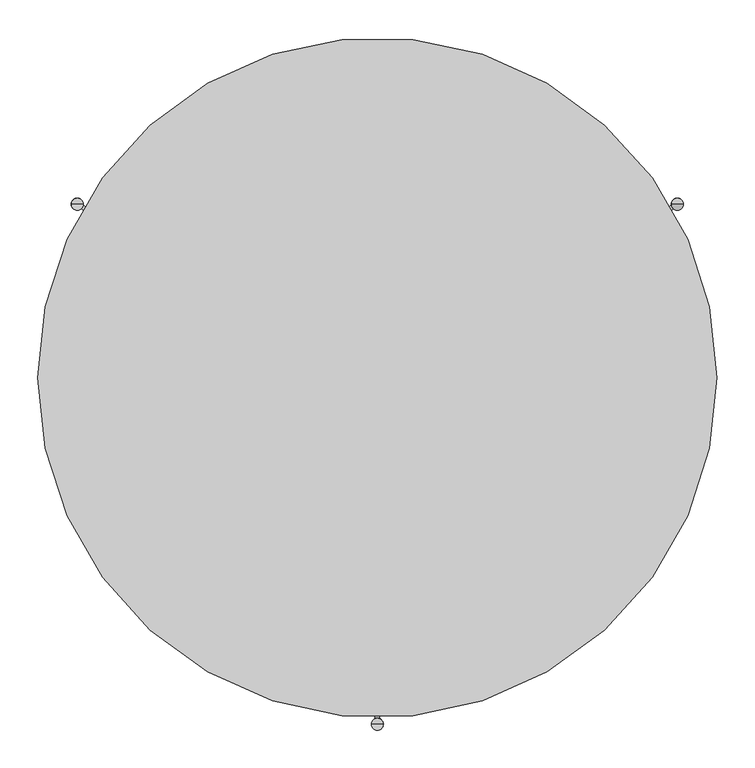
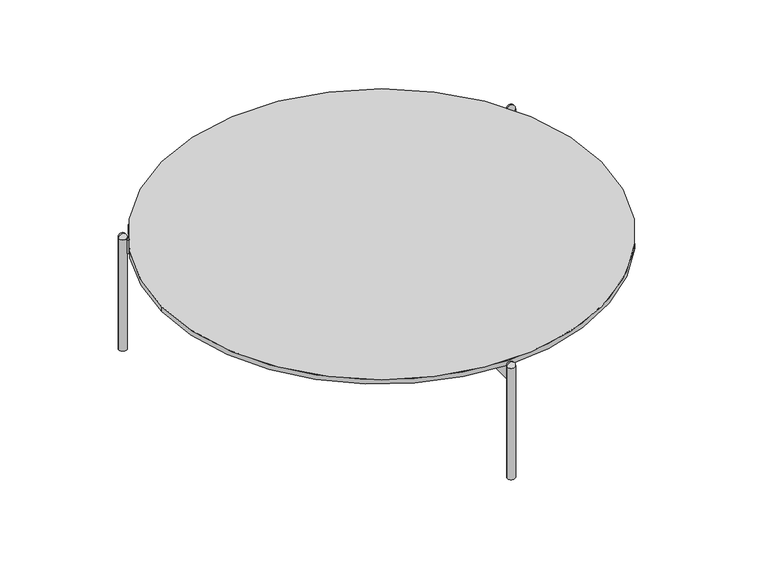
"""IFC4 building model written with IfcOpenShell, lengths in millimetres: furniture geometry, ROUND TABLE_H=25 : EI125B050090A_G."""

import ifcopenshell
import ifcopenshell.guid

model = None  # the IFC model being written
_history = None  # IfcOwnerHistory: only IFC2X3 demands one
_inside = {}  # id of a spatial element -> (the spatial element, [elements in it])
_under = {}  # id of a project, library or spatial element -> (it, [spatial elements below it])
_declared = {}  # id of a project -> (the project, [libraries it declares])
_typed = {}  # id of a type object -> (the type object, [elements of that type])
_made_of = {}  # id of a material, layer set ... -> (it, [elements and type objects made of it])


def new_model(schema):
    """Start an empty IFC model of exactly this schema.

    Asked for "IFC4X3", IfcOpenShell would pick the latest addendum, in which some entities
    have other attributes; the version numbers below select the first issue.
    IFC2X3 requires an IfcOwnerHistory on every rooted entity: one is made here for all.
    """
    global model, _history
    if schema == "IFC4X3":
        model = ifcopenshell.file(schema_version=(4, 3, 0, 0))
    else:
        model = ifcopenshell.file(schema=schema)
    _inside.clear()
    _under.clear()
    _declared.clear()
    _typed.clear()
    _made_of.clear()
    _history = None
    if model.schema == "IFC2X3":
        org = make("IfcOrganization", Name="unknown")
        user = make(
            "IfcPersonAndOrganization",
            ThePerson=make("IfcPerson", FamilyName="unknown"),
            TheOrganization=org,
        )
        app = make(
            "IfcApplication",
            ApplicationDeveloper=org,
            Version="unknown",
            ApplicationFullName="unknown",
            ApplicationIdentifier="unknown",
        )
        _history = make(
            "IfcOwnerHistory",
            OwningUser=user,
            OwningApplication=app,
            ChangeAction="ADDED",
            CreationDate=0,
        )
    return model


def make(cls, **values):
    """One entity of the class cls with the attributes given. An attribute that is None is left unset."""
    return model.create_entity(
        cls, **{name: value for name, value in values.items() if value is not None}
    )


def rooted(cls, **values):
    """An entity with a GlobalId (a new one), such as an element, a storey or a relation."""
    return make(cls, GlobalId=ifcopenshell.guid.new(), OwnerHistory=_history, **values)


def si_unit(unit_type, name, prefix=None):
    """IfcSIUnit, for example si_unit("LENGTHUNIT", "METRE", prefix="MILLI")."""
    return make("IfcSIUnit", UnitType=unit_type, Prefix=prefix, Name=name)


def assignment(units):
    """IfcUnitAssignment: the units of a project."""
    return None if units is None else make("IfcUnitAssignment", Units=units)


def point(xyz):
    """IfcCartesianPoint."""
    return None if xyz is None else make("IfcCartesianPoint", Coordinates=xyz)


def direction(xyz):
    """IfcDirection."""
    return None if xyz is None else make("IfcDirection", DirectionRatios=xyz)


def frame(location, z_axis=None, x_axis=None):
    """IfcAxis2Placement3D, a coordinate frame: its origin and axes. An axis left out is left unset."""
    return make(
        "IfcAxis2Placement3D",
        Location=point(location),
        Axis=direction(z_axis),
        RefDirection=direction(x_axis),
    )


def frame_2d(location, x_axis=None):
    """IfcAxis2Placement2D, a coordinate frame in the plane: its origin and x axis."""
    return make(
        "IfcAxis2Placement2D", Location=point(location), RefDirection=direction(x_axis)
    )


def origin():
    """The frame at (0, 0, 0) with its axes left unset."""
    return frame((0.0, 0.0, 0.0))


def origin_with_axes():
    """The frame at (0, 0, 0) with the z axis (0, 0, 1) and the x axis (1, 0, 0) written out."""
    return frame((0.0, 0.0, 0.0), z_axis=(0.0, 0.0, 1.0), x_axis=(1.0, 0.0, 0.0))


def origin_2d():
    """The frame at (0, 0) in the plane with its x axis left unset."""
    return frame_2d((0.0, 0.0))


def place(relative_to, where):
    """IfcLocalPlacement: puts the frame where relative to a parent placement (None: the world)."""
    return make(
        "IfcLocalPlacement", PlacementRelTo=relative_to, RelativePlacement=where
    )


def context(
    kind, dimensions, precision=None, world=None, true_north=None, identifier=None
):
    """IfcGeometricRepresentationContext, for example the 3D "Model" context."""
    return make(
        "IfcGeometricRepresentationContext",
        ContextIdentifier=identifier,
        ContextType=kind,
        CoordinateSpaceDimension=dimensions,
        Precision=precision,
        WorldCoordinateSystem=world,
        TrueNorth=true_north,
    )


def project(units=None, contexts=None):
    """IfcProject with its units and contexts."""
    return rooted(
        "IfcProject",
        Name="project",
        RepresentationContexts=contexts,
        UnitsInContext=assignment(units),
    )


def spatial(cls, under=None, at=None, **own):
    """A site, building, storey or space (cls), placed at a placement, below another one or the project."""
    s = rooted(cls, ObjectPlacement=at, **own)
    if under is not None:
        _under.setdefault(under.id(), (under, []))[1].append(s)
    return s


def polyline(points):
    """IfcPolyline through the points."""
    return make("IfcPolyline", Points=[point(p) for p in points])


def circle_curve(where, radius):
    """IfcCircle in the frame where."""
    return make("IfcCircle", Position=where, Radius=radius)


def ellipse_curve(where, semi_axis1, semi_axis2):
    """IfcEllipse in the frame where."""
    return make(
        "IfcEllipse", Position=where, SemiAxis1=semi_axis1, SemiAxis2=semi_axis2
    )


def trimmed(basis, trim1, trim2, sense, master):
    """IfcTrimmedCurve: the piece of a basis curve between two trims."""
    return make(
        "IfcTrimmedCurve",
        BasisCurve=basis,
        Trim1=trim1,
        Trim2=trim2,
        SenseAgreement=sense,
        MasterRepresentation=master,
    )


def segment(curve, same_sense, transition):
    """IfcCompositeCurveSegment."""
    return make(
        "IfcCompositeCurveSegment",
        Transition=transition,
        SameSense=same_sense,
        ParentCurve=curve,
    )


def composite_curve(segments, self_intersect=None):
    """IfcCompositeCurve: segments joined end to end."""
    return make("IfcCompositeCurve", Segments=segments, SelfIntersect=self_intersect)


def outline(outer, holes=None, kind="AREA"):
    """IfcArbitraryClosedProfileDef: a profile drawn as a closed curve; with holes, ...WithVoids."""
    if holes is None:
        return make("IfcArbitraryClosedProfileDef", ProfileType=kind, OuterCurve=outer)
    return make(
        "IfcArbitraryProfileDefWithVoids",
        ProfileType=kind,
        OuterCurve=outer,
        InnerCurves=holes,
    )


def extrude(swept, where, along, depth):
    """IfcExtrudedAreaSolid: the profile swept, set in the frame where, extruded along a direction by depth."""
    return make(
        "IfcExtrudedAreaSolid",
        SweptArea=swept,
        Position=where,
        ExtrudedDirection=direction(along),
        Depth=depth,
    )


def shape(context_of_items, identifier, shape_type, items):
    """IfcShapeRepresentation: the items that make up one representation, for example the "Body"."""
    return make(
        "IfcShapeRepresentation",
        ContextOfItems=context_of_items,
        RepresentationIdentifier=identifier,
        RepresentationType=shape_type,
        Items=items,
    )


def source(mapping_origin, context_of_items, identifier, shape_type, items):
    """IfcRepresentationMap: a shape defined once, which mapped items show again and again."""
    return make(
        "IfcRepresentationMap",
        MappingOrigin=mapping_origin,
        MappedRepresentation=shape(context_of_items, identifier, shape_type, items),
    )


def transform(
    local_origin,
    x_axis=None,
    y_axis=None,
    z_axis=None,
    scale=None,
    scale2=None,
    scale3=None,
    uniform=True,
):
    """IfcCartesianTransformationOperator3D, or its non-uniform kind. x_axis, y_axis, z_axis: its Axis1, 2, 3."""
    if uniform:
        return make(
            "IfcCartesianTransformationOperator3D",
            Axis1=direction(x_axis),
            Axis2=direction(y_axis),
            LocalOrigin=point(local_origin),
            Scale=scale,
            Axis3=direction(z_axis),
        )
    return make(
        "IfcCartesianTransformationOperator3DnonUniform",
        Axis1=direction(x_axis),
        Axis2=direction(y_axis),
        LocalOrigin=point(local_origin),
        Scale=scale,
        Axis3=direction(z_axis),
        Scale2=scale2,
        Scale3=scale3,
    )


def mapped(mapping_source, mapping_target):
    """IfcMappedItem: shows the shape of a source again, moved by a transform."""
    return make(
        "IfcMappedItem", MappingSource=mapping_source, MappingTarget=mapping_target
    )


def made_of(thing, what):
    """Note that an element or type object is made of a material, layer set ...; save() writes the relation."""
    if what is not None:
        _made_of.setdefault(what.id(), (what, []))[1].append(thing)
    return thing


def element(
    cls,
    number,
    at=None,
    inside=None,
    cuts=None,
    type_object=None,
    material=None,
    context=None,
    identifier="Body",
    shape_type=None,
    held_by="IfcProductDefinitionShape",
    body=None,
    shapes=None,
    **own,
):
    """One element of the class cls, such as IfcWall. Its Tag is "e" and its number.

    at: its placement. inside: the storey or other place that contains it. cuts: it is an
    opening in that element (IfcRelVoidsElement). A single representation is given by context,
    identifier, shape_type and body (its items); several are given by shapes. held_by: the class
    of the entity that holds the representations. save() writes the other relations.
    """
    e = rooted(cls, Tag="e%d" % number, ObjectPlacement=at, **own)
    if body is not None:
        shapes = [shape(context, identifier, shape_type, body)]
    if shapes is not None:
        e.Representation = make(held_by, Representations=shapes)
    if inside is not None:
        _inside.setdefault(inside.id(), (inside, []))[1].append(e)
    if cuts is not None:
        rooted(
            "IfcRelVoidsElement", RelatingBuildingElement=cuts, RelatedOpeningElement=e
        )
    if type_object is not None:
        _typed.setdefault(type_object.id(), (type_object, []))[1].append(e)
    return made_of(e, material)


def aggregate(whole, parts):
    """IfcRelAggregates: a whole, such as a stair, and the parts it consists of."""
    return rooted("IfcRelAggregates", RelatingObject=whole, RelatedObjects=parts)


def save(model, path):
    """Write the relations noted so far, then the file.

    IfcRelAggregates (storeys below a building ...), IfcRelContainedInSpatialStructure (elements
    in a storey), IfcRelDefinesByType, IfcRelAssociatesMaterial and IfcRelDeclares: one each for
    every whole, place, type object, material and project.
    """
    for whole, parts in _under.values():
        aggregate(whole, parts)
    for where, things in _inside.values():
        rooted(
            "IfcRelContainedInSpatialStructure",
            RelatedElements=things,
            RelatingStructure=where,
        )
    for kind, things in _typed.values():
        rooted("IfcRelDefinesByType", RelatedObjects=things, RelatingType=kind)
    for what, things in _made_of.values():
        rooted("IfcRelAssociatesMaterial", RelatedObjects=things, RelatingMaterial=what)
    for by, libraries in _declared.values():
        rooted("IfcRelDeclares", RelatingContext=by, RelatedDefinitions=libraries)
    model.write(path)


def plane_surface(at):
    """IfcPlane: the flat surface through the origin of the frame at, square to its z axis."""
    return make("IfcPlane", Position=at)


def revolved_surface(curve, axis_point, axis_direction):
    """IfcSurfaceOfRevolution: the curve turned about the line through axis_point along axis_direction."""
    return make(
        "IfcSurfaceOfRevolution",
        SweptCurve=make("IfcArbitraryOpenProfileDef", ProfileType="CURVE", Curve=curve),
        AxisPosition=make("IfcAxis1Placement", Location=point(axis_point), Axis=direction(axis_direction)),
    )


def advanced_brep(points, edges, surfaces, faces):
    """IfcAdvancedBrep: a solid bounded by faces that lie on surfaces and meet in shared edges.

    An edge is (start, end): straight between two places in points (the first is 0);
    or (start, end, curve); or (start, end, curve, False) where it runs against its curve.
    A face is (place in surfaces, loops), or (place, loops, False) where it looks against
    its surface's normal. A loop lists edges by number (the first is 1), with a minus sign
    where the edge is run from its end to its start. The first loop is the outer one.
    """
    corners = [point(p) for p in points]
    vertices = [make("IfcVertexPoint", VertexGeometry=c) for c in corners]
    made = []
    for start, end, *more in edges:
        made.append(
            make(
                "IfcEdgeCurve",
                EdgeStart=vertices[start],
                EdgeEnd=vertices[end],
                EdgeGeometry=more[0] if more else make("IfcPolyline", Points=[corners[start], corners[end]]),
                SameSense=more[1] if len(more) > 1 else True,
            )
        )
    hull = []
    for where, loops, *sense in faces:
        bounds = []
        for j, loop in enumerate(loops):
            ring = [make("IfcOrientedEdge", EdgeElement=made[abs(k) - 1], Orientation=k > 0) for k in loop]
            bounds.append(
                make(
                    "IfcFaceOuterBound" if j == 0 else "IfcFaceBound",
                    Bound=make("IfcEdgeLoop", EdgeList=ring),
                    Orientation=True,
                )
            )
        hull.append(make("IfcAdvancedFace", Bounds=bounds, FaceSurface=surfaces[where], SameSense=sense[0] if sense else True))
    return make("IfcAdvancedBrep", Outer=make("IfcClosedShell", CfsFaces=hull))


def furniture_84bfae13(model_context):
    return source(origin(), model_context, "Body", "SolidModel", [
        extrude(outline(composite_curve([segment(trimmed(circle_curve(origin_2d(), 450.0), [point((-450.0, 0.0))], [point((450.0, 0.0))], False, "CARTESIAN"), True, "CONTINUOUS"), segment(trimmed(circle_curve(origin_2d(), 450.0), [point((450.0, 0.0))], [point((-450.0, 0.0))], False, "CARTESIAN"), True, "CONTINUOUS")], self_intersect=False)), frame((0.0, 0.0, 237.6939464), z_axis=(0.0, 0.0, 1.0), x_axis=(1.0, 0.0, 0.0)), (0.0, 0.0, 1.0), 10.0),
        advanced_brep(
        [(397.55, 229.6, 249.1666667), (389.55, 229.6, 241.1666667), (405.55, 229.6, 241.1666667), (397.55, 229.6, 241.1666667)],
        [
            (0, 1, circle_curve(frame((397.55, 229.6, 241.1666667), z_axis=(0.0, -1.0, 0.0), x_axis=(1.0, 0.0, 0.0)), 8.0)),
            (1, 2, circle_curve(frame((397.55, 229.6, 241.1666667), z_axis=(0.0, 0.0, 1.0), x_axis=(-1.0, 0.0, 0.0)), 8.0)),
            (2, 0, circle_curve(frame((397.55, 229.6, 241.1666667), z_axis=(0.0, -1.0, 0.0), x_axis=(-1.0, 0.0, 0.0)), 8.0)),
            (2, 1, circle_curve(frame((397.55, 229.6, 241.1666667), z_axis=(0.0, 0.0, 1.0), x_axis=(-1.0, 0.0, 0.0)), 8.0)),
            (1, 3),
            (3, 2),
        ],
        [
            revolved_surface(trimmed(ellipse_curve(frame((397.55, 229.6, 241.1666667), z_axis=(0.0, 1.0, 0.0), x_axis=(1.0, 0.0, 0.0)), 8.0, 8.0), [point((389.55, 229.6, 241.1666667))], [point((397.55, 229.6, 249.1666667))], True, "CARTESIAN"), (397.55, 229.6, 2438.4), (0.0, 0.0, 1.0)),
            plane_surface(frame((397.55, 229.6, 241.1666667), z_axis=(0.0, 0.0, -1.0), x_axis=(-1.0, 0.0, 0.0))),
        ],
        [
            (0, [[1, 2, 3]]),
            (0, [[-3, 4, -1]]),
            (1, [[-2, 5, 6]]),
            (1, [[-4, -6, -5]]),
        ],
    ),
        advanced_brep(
        [(397.55, 229.6, 249.1666667), (389.55, 229.6, 241.1666667), (405.55, 229.6, 241.1666667), (397.55, 229.6, 241.1666667)],
        [
            (0, 1, circle_curve(frame((397.55, 229.6, 241.1666667), z_axis=(0.0, -1.0, 0.0), x_axis=(1.0, 0.0, 0.0)), 8.0)),
            (1, 2, circle_curve(frame((397.55, 229.6, 241.1666667), z_axis=(0.0, 0.0, 1.0), x_axis=(-1.0, 0.0, 0.0)), 8.0)),
            (2, 0, circle_curve(frame((397.55, 229.6, 241.1666667), z_axis=(0.0, -1.0, 0.0), x_axis=(-1.0, 0.0, 0.0)), 8.0)),
            (2, 1, circle_curve(frame((397.55, 229.6, 241.1666667), z_axis=(0.0, 0.0, 1.0), x_axis=(-1.0, 0.0, 0.0)), 8.0)),
            (1, 3),
            (3, 2),
        ],
        [
            revolved_surface(trimmed(ellipse_curve(frame((397.55, 229.6, 241.1666667), z_axis=(0.0, 1.0, 0.0), x_axis=(1.0, 0.0, 0.0)), 8.0, 8.0), [point((389.55, 229.6, 241.1666667))], [point((397.55, 229.6, 249.1666667))], True, "CARTESIAN"), (397.55, 229.6, 2438.4), (0.0, 0.0, 1.0)),
            plane_surface(frame((397.55, 229.6, 241.1666667), z_axis=(0.0, 0.0, -1.0), x_axis=(-1.0, 0.0, 0.0))),
        ],
        [
            (0, [[1, 2, 3]]),
            (0, [[-3, 4, -1]]),
            (1, [[-2, 5, 6]]),
            (1, [[-4, -6, -5]]),
        ],
    ),
        advanced_brep(
        [(-405.55, 229.6, 241.1666667), (-389.55, 229.6, 241.1666667), (-397.55, 229.6, 249.1666667), (-397.55, 229.6, 241.1666667)],
        [
            (0, 1, circle_curve(frame((-397.55, 229.6, 241.1666667), z_axis=(0.0, 0.0, 1.0), x_axis=(1.0, 0.0, 0.0)), 8.0)),
            (1, 2, circle_curve(frame((-397.55, 229.6, 241.1666667), z_axis=(0.0, -1.0, 0.0), x_axis=(-1.0, 0.0, 0.0)), 8.0)),
            (2, 0, circle_curve(frame((-397.55, 229.6, 241.1666667), z_axis=(0.0, -1.0, 0.0), x_axis=(1.0, 0.0, 0.0)), 8.0)),
            (1, 0, circle_curve(frame((-397.55, 229.6, 241.1666667), z_axis=(0.0, 0.0, 1.0), x_axis=(1.0, 0.0, 0.0)), 8.0)),
            (3, 1),
            (0, 3),
        ],
        [
            revolved_surface(trimmed(ellipse_curve(frame((-397.55, 229.6, 241.1666667), z_axis=(0.0, 1.0, 0.0), x_axis=(-1.0, 0.0, 0.0)), 8.0, 8.0), [point((-397.55, 229.6, 249.1666667))], [point((-389.55, 229.6, 241.1666667))], True, "CARTESIAN"), (-397.55, 229.6, 2438.4), (0.0, 0.0, -1.0)),
            plane_surface(frame((-397.55, 229.6, 241.1666667), z_axis=(0.0, 0.0, -1.0), x_axis=(1.0, 0.0, 0.0))),
        ],
        [
            (0, [[1, 2, 3]]),
            (0, [[4, -3, -2]]),
            (1, [[5, -1, 6]]),
            (1, [[-6, -4, -5]]),
        ],
    ),
        advanced_brep(
        [(-8.025371, -459.0, 241.1666667), (7.974629, -459.0, 241.1666667), (-0.025371, -459.0, 249.1666667), (-0.025371, -459.0, 241.1666667)],
        [
            (0, 1, circle_curve(frame((-0.025371, -459.0, 241.1666667), z_axis=(0.0, 0.0, 1.0), x_axis=(1.0, 0.0, 0.0)), 8.0)),
            (1, 2, circle_curve(frame((-0.025371, -459.0, 241.1666667), z_axis=(0.0, -1.0, 0.0), x_axis=(-1.0, 0.0, 0.0)), 8.0)),
            (2, 0, circle_curve(frame((-0.025371, -459.0, 241.1666667), z_axis=(0.0, -1.0, 0.0), x_axis=(1.0, 0.0, 0.0)), 8.0)),
            (1, 0, circle_curve(frame((-0.025371, -459.0, 241.1666667), z_axis=(0.0, 0.0, 1.0), x_axis=(1.0, 0.0, 0.0)), 8.0)),
            (3, 1),
            (0, 3),
        ],
        [
            revolved_surface(trimmed(ellipse_curve(frame((-0.025371, -459.0, 241.1666667), z_axis=(0.0, 1.0, 0.0), x_axis=(-1.0, 0.0, 0.0)), 8.0, 8.0), [point((-0.025371, -459.0, 249.1666667))], [point((7.974629, -459.0, 241.1666667))], True, "CARTESIAN"), (-0.025371, -459.0, 2438.4), (0.0, 0.0, -1.0)),
            plane_surface(frame((-0.025371, -459.0, 241.1666667), z_axis=(0.0, 0.0, -1.0), x_axis=(1.0, 0.0, 0.0))),
        ],
        [
            (0, [[1, 2, 3]]),
            (0, [[4, -3, -2]]),
            (1, [[5, -1, 6]]),
            (1, [[-6, -4, -5]]),
        ],
    ),
        extrude(outline(composite_curve([segment(polyline([(-19.7129166, 7.9278768), (-392.6744849, 223.2573387)]), True, "CONTINUOUS"), segment(trimmed(circle_curve(frame_2d((-397.55, 229.6)), 8.0), [point((-392.6744849, 223.2573387))], [point((-389.6358441, 228.4311818))], True, "CARTESIAN"), True, "CONTINUOUS"), segment(polyline([(-389.6358441, 228.4311818), (-16.7129166, 13.1240293), (-19.7129166, 7.9278768)]), True, "CONTINUOUS")], self_intersect=False)), frame((0.0, 0.0, 207.6939464), z_axis=(0.0, 0.0, 1.0), x_axis=(1.0, 0.0, 0.0)), (0.0, 0.0, 1.0), 30.0),
        extrude(outline(composite_curve([segment(polyline([(19.7314855, 7.9171561), (16.7314855, 13.1133085), (389.6387851, 228.4114383)]), True, "CONTINUOUS"), segment(trimmed(circle_curve(frame_2d((397.55, 229.6)), 8.0), [point((389.6387851, 228.4114383))], [point((392.6904379, 223.2451077))], True, "CARTESIAN"), True, "CONTINUOUS"), segment(polyline([(392.6904379, 223.2451077), (19.7314855, 7.9171561)]), True, "CONTINUOUS")], self_intersect=False)), frame((0.0, 0.0, 207.6939464), z_axis=(0.0, 0.0, 1.0), x_axis=(1.0, 0.0, 0.0)), (0.0, 0.0, 1.0), 30.0),
        extrude(outline(composite_curve([segment(polyline([(3.0, -21.0411853), (3.0, -451.5838015)]), True, "CONTINUOUS"), segment(trimmed(circle_curve(frame_2d((0.0, -459.0)), 8.0), [point((3.0, -451.5838015))], [point((-3.0, -451.5838015))], True, "CARTESIAN"), True, "CONTINUOUS"), segment(polyline([(-3.0, -451.5838015), (-3.0, -21.0411853), (3.0, -21.0411853)]), True, "CONTINUOUS")], self_intersect=False)), frame((0.0, 0.0, 207.6939464), z_axis=(0.0, 0.0, 1.0), x_axis=(1.0, 0.0, 0.0)), (0.0, 0.0, 1.0), 30.0),
        extrude(outline(composite_curve([segment(trimmed(circle_curve(origin_2d(), 23.0), [point((-23.0, 0.0))], [point((23.0, 0.0))], False, "CARTESIAN"), True, "CONTINUOUS"), segment(trimmed(circle_curve(origin_2d(), 23.0), [point((23.0, 0.0))], [point((-23.0, 0.0))], False, "CARTESIAN"), True, "CONTINUOUS")], self_intersect=False)), frame((0.0, 0.0, 207.6939464), z_axis=(0.0, 0.0, 1.0), x_axis=(1.0, 0.0, 0.0)), (0.0, 0.0, 1.0), 30.0),
        extrude(outline(composite_curve([segment(trimmed(circle_curve(frame_2d((-397.55, 229.6)), 8.0), [point((-405.55, 229.6))], [point((-389.55, 229.6))], False, "CARTESIAN"), True, "CONTINUOUS"), segment(trimmed(circle_curve(frame_2d((-397.55, 229.6)), 8.0), [point((-389.55, 229.6))], [point((-405.55, 229.6))], False, "CARTESIAN"), True, "CONTINUOUS")], self_intersect=False)), origin_with_axes(), (0.0, 0.0, 1.0), 241.1666667),
        extrude(outline(composite_curve([segment(trimmed(circle_curve(frame_2d((397.55, 229.6)), 8.0), [point((389.55, 229.6))], [point((405.55, 229.6))], False, "CARTESIAN"), True, "CONTINUOUS"), segment(trimmed(circle_curve(frame_2d((397.55, 229.6)), 8.0), [point((405.55, 229.6))], [point((389.55, 229.6))], False, "CARTESIAN"), True, "CONTINUOUS")], self_intersect=False)), origin_with_axes(), (0.0, 0.0, 1.0), 241.1666667),
        extrude(outline(composite_curve([segment(trimmed(circle_curve(frame_2d((0.0, -459.0)), 8.0), [point((-8.0, -459.0))], [point((8.0, -459.0))], False, "CARTESIAN"), True, "CONTINUOUS"), segment(trimmed(circle_curve(frame_2d((0.0, -459.0)), 8.0), [point((8.0, -459.0))], [point((-8.0, -459.0))], False, "CARTESIAN"), True, "CONTINUOUS")], self_intersect=False)), origin_with_axes(), (0.0, 0.0, 1.0), 241.1666667),
    ])


if __name__ == "__main__":
    model = new_model("IFC4")
    model_context = context("Model", 3, world=origin())
    ifc_project = project(units=[si_unit("LENGTHUNIT", "METRE", prefix="MILLI")], contexts=[model_context])
    site = spatial("IfcSite", under=ifc_project)
    building = spatial("IfcBuilding", under=site)
    placement = place(None, origin())
    furniture_shape = furniture_84bfae13(model_context)
    element("IfcFurniture", 1, ObjectType="ROUND TABLE_H=25 : EI125B050090A_G", at=placement, inside=building, context=model_context, shape_type="MappedRepresentation", body=[
        mapped(furniture_shape, transform((0.0, 0.0, 0.0), x_axis=(1.0, 0.0, 0.0), y_axis=(0.0, 1.0, 0.0), z_axis=(0.0, 0.0, 1.0))),
    ])
    save(model, "model.ifc")
